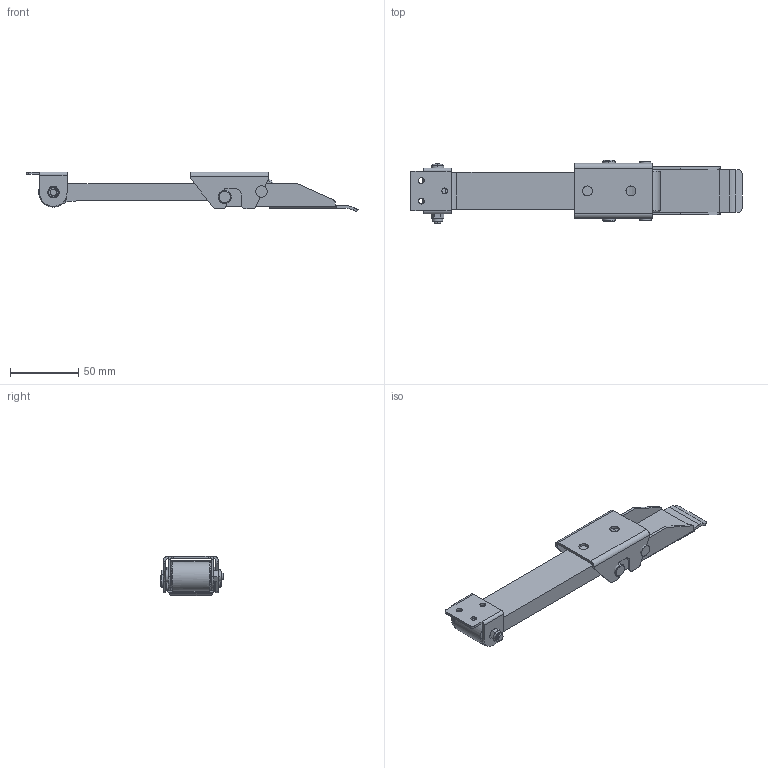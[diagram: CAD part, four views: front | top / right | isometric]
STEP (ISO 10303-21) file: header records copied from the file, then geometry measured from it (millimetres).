
FILE_DESCRIPTION (( 'STEP AP214' ), '1' );
FILE_NAME ('TS-611-S.STEP', '2022-04-30T03:35:00', ( 'Owner' ), ( '' ), 'SwSTEP 2.0', 'SolidWorks 2019', '' );
FILE_SCHEMA (( 'AUTOMOTIVE_DESIGN' ));
Length unit declared in the file: millimetre
Products named in the file (1): TS-611-S
Bounding box: 242.52 x 46.2 x 29.22 mm (x, y, z)
Volume: 91665 mm3; surface area: 39223.7 mm2
Topology: 6 solids, 6 shells, 237 faces, 607 edges, 390 vertices
Faces by surface type: plane 112, cylinder 92, cone 22, torus 7, bspline 4
Entity records: 8035 total; most frequent: CARTESIAN_POINT 2125, DIRECTION 1232, ORIENTED_EDGE 1214, EDGE_CURVE 607, AXIS2_PLACEMENT_3D 453, VERTEX_POINT 390, VECTOR 326, LINE 326
